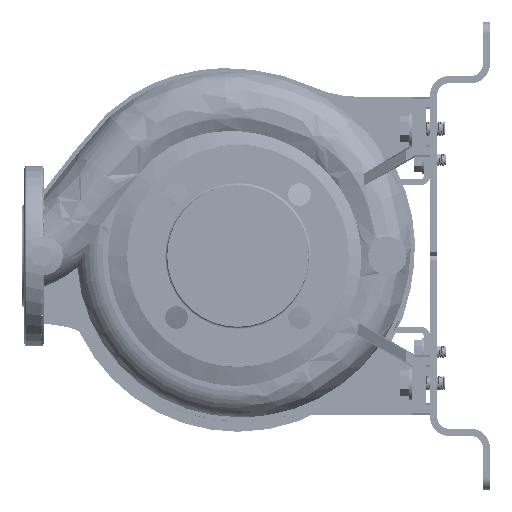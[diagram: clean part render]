
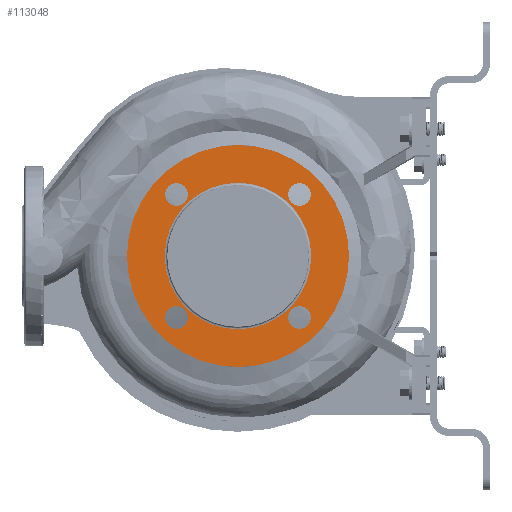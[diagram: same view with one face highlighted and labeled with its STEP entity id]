
A CAD part, left-side view. The second image highlights one B-rep face of the part: STEP entity #113048.
In plain terms, the highlighted planar face has unit normal (-1, 0, 0).
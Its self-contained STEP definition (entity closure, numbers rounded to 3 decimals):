
#778 = CARTESIAN_POINT ( 'NONE',  ( -98., 60.765, -51.265 ) ) ;
#1846 = DIRECTION ( 'NONE',  ( 0., -1., 0. ) ) ;
#2463 = VERTEX_POINT ( 'NONE', #67844 ) ;
#2522 = ORIENTED_EDGE ( 'NONE', *, *, #45953, .F. ) ;
#3687 = DIRECTION ( 'NONE',  ( -1., 0., 0. ) ) ;
#4000 = DIRECTION ( 'NONE',  ( 0., 1., 0. ) ) ;
#5496 = EDGE_CURVE ( 'NONE', #169895, #131102, #127170, .T. ) ;
#5530 = CARTESIAN_POINT ( 'NONE',  ( -98., 51.265, 51.265 ) ) ;
#5949 = CIRCLE ( 'NONE', #29626, 9.5 ) ;
#6803 = CARTESIAN_POINT ( 'NONE',  ( -98., 0., 0. ) ) ;
#8365 = EDGE_CURVE ( 'NONE', #146973, #75742, #5949, .T. ) ;
#12653 = AXIS2_PLACEMENT_3D ( 'NONE', #153474, #41391, #123845 ) ;
#12968 = CARTESIAN_POINT ( 'NONE',  ( -98., 61., 0. ) ) ;
#13033 = AXIS2_PLACEMENT_3D ( 'NONE', #60682, #160695, #144041 ) ;
#14829 = CARTESIAN_POINT ( 'NONE',  ( -98., -61., 0. ) ) ;
#21077 = CARTESIAN_POINT ( 'NONE',  ( -98., -51.265, -51.265 ) ) ;
#21396 = ORIENTED_EDGE ( 'NONE', *, *, #22334, .F. ) ;
#21940 = ORIENTED_EDGE ( 'NONE', *, *, #87676, .F. ) ;
#22334 = EDGE_CURVE ( 'NONE', #2463, #137994, #78949, .T. ) ;
#26720 = ORIENTED_EDGE ( 'NONE', *, *, #35711, .F. ) ;
#28435 = VERTEX_POINT ( 'NONE', #12968 ) ;
#29558 = CIRCLE ( 'NONE', #115368, 9.5 ) ;
#29626 = AXIS2_PLACEMENT_3D ( 'NONE', #124225, #110337, #166852 ) ;
#30567 = CARTESIAN_POINT ( 'NONE',  ( -98., 0., 0. ) ) ;
#33228 = VERTEX_POINT ( 'NONE', #778 ) ;
#35711 = EDGE_CURVE ( 'NONE', #137994, #2463, #108120, .T. ) ;
#37002 = CIRCLE ( 'NONE', #87235, 92.5 ) ;
#41391 = DIRECTION ( 'NONE',  ( -1., 0., 0. ) ) ;
#44720 = EDGE_CURVE ( 'NONE', #173106, #175331, #70146, .T. ) ;
#45953 = EDGE_CURVE ( 'NONE', #175331, #173106, #159155, .T. ) ;
#47351 = AXIS2_PLACEMENT_3D ( 'NONE', #6803, #90217, #122534 ) ;
#48626 = EDGE_CURVE ( 'NONE', #75742, #146973, #29558, .T. ) ;
#49320 = FACE_OUTER_BOUND ( 'NONE', #52848, .T. ) ;
#49743 = ORIENTED_EDGE ( 'NONE', *, *, #8365, .F. ) ;
#52514 = DIRECTION ( 'NONE',  ( -1., 0., 0. ) ) ;
#52567 = VERTEX_POINT ( 'NONE', #170076 ) ;
#52848 = EDGE_LOOP ( 'NONE', ( #147177, #69506 ) ) ;
#54280 = DIRECTION ( 'NONE',  ( -1., 0., 0. ) ) ;
#56125 = EDGE_CURVE ( 'NONE', #52567, #33228, #137234, .T. ) ;
#59582 = FACE_BOUND ( 'NONE', #82200, .T. ) ;
#60509 = FACE_BOUND ( 'NONE', #156891, .T. ) ;
#60682 = CARTESIAN_POINT ( 'NONE',  ( -98., 0., 0. ) ) ;
#61426 = DIRECTION ( 'NONE',  ( 1., 0., 0. ) ) ;
#65678 = CARTESIAN_POINT ( 'NONE',  ( -98., -60.765, 51.265 ) ) ;
#67844 = CARTESIAN_POINT ( 'NONE',  ( -98., 41.765, 51.265 ) ) ;
#69094 = CARTESIAN_POINT ( 'NONE',  ( -98., -51.265, 51.265 ) ) ;
#69506 = ORIENTED_EDGE ( 'NONE', *, *, #169702, .T. ) ;
#69636 = AXIS2_PLACEMENT_3D ( 'NONE', #5530, #79556, #94371 ) ;
#70146 = CIRCLE ( 'NONE', #173722, 9.5 ) ;
#71579 = DIRECTION ( 'NONE',  ( -1., 0., 0. ) ) ;
#75742 = VERTEX_POINT ( 'NONE', #65678 ) ;
#76219 = FACE_BOUND ( 'NONE', #172518, .T. ) ;
#77544 = ORIENTED_EDGE ( 'NONE', *, *, #48626, .F. ) ;
#78332 = DIRECTION ( 'NONE',  ( -1., 0., 0. ) ) ;
#78949 = CIRCLE ( 'NONE', #120337, 9.5 ) ;
#79556 = DIRECTION ( 'NONE',  ( -1., 0., 0. ) ) ;
#82200 = EDGE_LOOP ( 'NONE', ( #111567, #21940 ) ) ;
#83524 = CARTESIAN_POINT ( 'NONE',  ( -98., -51.265, -51.265 ) ) ;
#85309 = CIRCLE ( 'NONE', #120868, 61. ) ;
#86776 = CARTESIAN_POINT ( 'NONE',  ( -98., -41.765, -51.265 ) ) ;
#87020 = AXIS2_PLACEMENT_3D ( 'NONE', #119102, #78332, #145090 ) ;
#87235 = AXIS2_PLACEMENT_3D ( 'NONE', #101182, #71579, #114200 ) ;
#87676 = EDGE_CURVE ( 'NONE', #28435, #127001, #181641, .T. ) ;
#88285 = AXIS2_PLACEMENT_3D ( 'NONE', #83524, #140001, #94681 ) ;
#90037 = CARTESIAN_POINT ( 'NONE',  ( -98., 60.765, 51.265 ) ) ;
#90124 = FACE_BOUND ( 'NONE', #165819, .T. ) ;
#90217 = DIRECTION ( 'NONE',  ( -1., 0., 0. ) ) ;
#94371 = DIRECTION ( 'NONE',  ( 0., -1., 0. ) ) ;
#94681 = DIRECTION ( 'NONE',  ( 0., 1., 0. ) ) ;
#95066 = DIRECTION ( 'NONE',  ( 0., 0., -1. ) ) ;
#99931 = CARTESIAN_POINT ( 'NONE',  ( -98., 92.5, 0. ) ) ;
#101032 = CARTESIAN_POINT ( 'NONE',  ( -98., -60.765, -51.265 ) ) ;
#101182 = CARTESIAN_POINT ( 'NONE',  ( -98., 0., 0. ) ) ;
#105151 = CARTESIAN_POINT ( 'NONE',  ( -98., -41.765, 51.265 ) ) ;
#108120 = CIRCLE ( 'NONE', #69636, 9.5 ) ;
#110337 = DIRECTION ( 'NONE',  ( -1., 0., 0. ) ) ;
#111567 = ORIENTED_EDGE ( 'NONE', *, *, #127163, .F. ) ;
#113048 = ADVANCED_FACE ( 'NONE', ( #90124, #76219, #146628, #60509, #59582, #49320 ), #129981, .F. ) ;
#114200 = DIRECTION ( 'NONE',  ( 0., -1., 0. ) ) ;
#115368 = AXIS2_PLACEMENT_3D ( 'NONE', #69094, #54280, #95066 ) ;
#118358 = ORIENTED_EDGE ( 'NONE', *, *, #163559, .F. ) ;
#119102 = CARTESIAN_POINT ( 'NONE',  ( -98., 51.265, -51.265 ) ) ;
#120337 = AXIS2_PLACEMENT_3D ( 'NONE', #183205, #140574, #141493 ) ;
#120868 = AXIS2_PLACEMENT_3D ( 'NONE', #30567, #3687, #1846 ) ;
#122534 = DIRECTION ( 'NONE',  ( 0., -1., 0. ) ) ;
#123845 = DIRECTION ( 'NONE',  ( 0., 0., 1. ) ) ;
#124225 = CARTESIAN_POINT ( 'NONE',  ( -98., -51.265, 51.265 ) ) ;
#127001 = VERTEX_POINT ( 'NONE', #14829 ) ;
#127163 = EDGE_CURVE ( 'NONE', #127001, #28435, #85309, .T. ) ;
#127170 = CIRCLE ( 'NONE', #47351, 92.5 ) ;
#129981 = PLANE ( 'NONE',  #137520 ) ;
#131102 = VERTEX_POINT ( 'NONE', #99931 ) ;
#135888 = DIRECTION ( 'NONE',  ( 0., 1., 0. ) ) ;
#137234 = CIRCLE ( 'NONE', #87020, 9.5 ) ;
#137520 = AXIS2_PLACEMENT_3D ( 'NONE', #145702, #61426, #4000 ) ;
#137994 = VERTEX_POINT ( 'NONE', #90037 ) ;
#139069 = EDGE_LOOP ( 'NONE', ( #153647, #118358 ) ) ;
#140001 = DIRECTION ( 'NONE',  ( -1., 0., 0. ) ) ;
#140574 = DIRECTION ( 'NONE',  ( -1., 0., 0. ) ) ;
#141493 = DIRECTION ( 'NONE',  ( 0., -1., 0. ) ) ;
#144041 = DIRECTION ( 'NONE',  ( 0., -1., 0. ) ) ;
#145090 = DIRECTION ( 'NONE',  ( 0., 0., 1. ) ) ;
#145702 = CARTESIAN_POINT ( 'NONE',  ( -98., 61., 0. ) ) ;
#146628 = FACE_BOUND ( 'NONE', #139069, .T. ) ;
#146973 = VERTEX_POINT ( 'NONE', #105151 ) ;
#147177 = ORIENTED_EDGE ( 'NONE', *, *, #5496, .T. ) ;
#153474 = CARTESIAN_POINT ( 'NONE',  ( -98., 51.265, -51.265 ) ) ;
#153647 = ORIENTED_EDGE ( 'NONE', *, *, #56125, .F. ) ;
#156891 = EDGE_LOOP ( 'NONE', ( #21396, #26720 ) ) ;
#159155 = CIRCLE ( 'NONE', #88285, 9.5 ) ;
#160695 = DIRECTION ( 'NONE',  ( -1., 0., 0. ) ) ;
#163559 = EDGE_CURVE ( 'NONE', #33228, #52567, #181255, .T. ) ;
#165819 = EDGE_LOOP ( 'NONE', ( #77544, #49743 ) ) ;
#166852 = DIRECTION ( 'NONE',  ( 0., 0., -1. ) ) ;
#167096 = ORIENTED_EDGE ( 'NONE', *, *, #44720, .F. ) ;
#169702 = EDGE_CURVE ( 'NONE', #131102, #169895, #37002, .T. ) ;
#169895 = VERTEX_POINT ( 'NONE', #176189 ) ;
#170076 = CARTESIAN_POINT ( 'NONE',  ( -98., 41.765, -51.265 ) ) ;
#172518 = EDGE_LOOP ( 'NONE', ( #2522, #167096 ) ) ;
#173106 = VERTEX_POINT ( 'NONE', #86776 ) ;
#173722 = AXIS2_PLACEMENT_3D ( 'NONE', #21077, #52514, #135888 ) ;
#175331 = VERTEX_POINT ( 'NONE', #101032 ) ;
#176189 = CARTESIAN_POINT ( 'NONE',  ( -98., -92.5, 0. ) ) ;
#181255 = CIRCLE ( 'NONE', #12653, 9.5 ) ;
#181641 = CIRCLE ( 'NONE', #13033, 61. ) ;
#183205 = CARTESIAN_POINT ( 'NONE',  ( -98., 51.265, 51.265 ) ) ;
